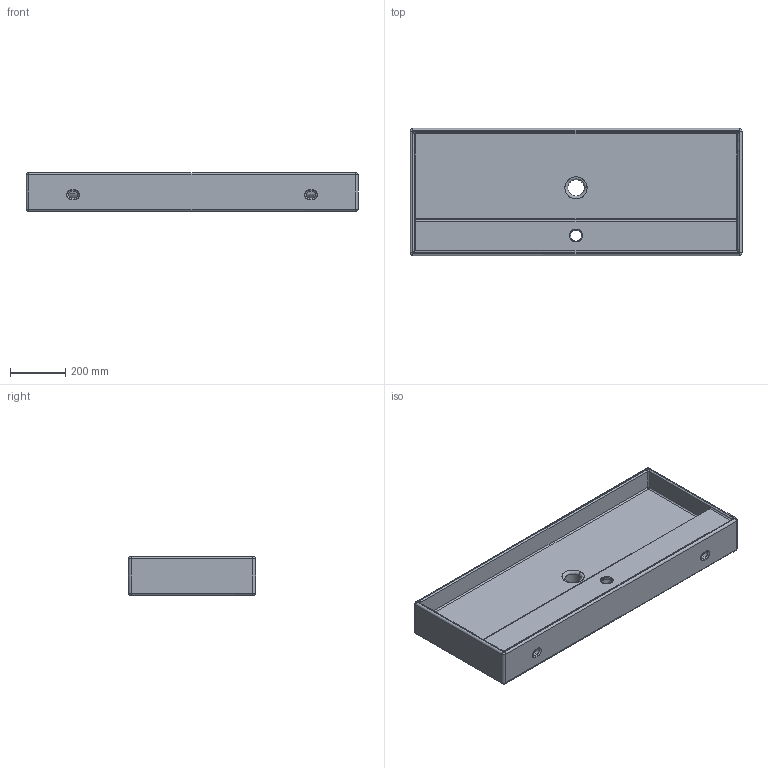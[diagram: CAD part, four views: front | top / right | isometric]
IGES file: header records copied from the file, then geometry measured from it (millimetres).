
Start section: C
Global section: file name: Teorema 120 R-A.igs; native system:  By UGS Corp.; preprocessor: XPlus GENERIC/IGES 3.0; author: Author; organization: Title; date: 20120705.150312; units: millimetre
Bounding box: 1200 x 460 x 140 mm (x, y, z)
Surface area: 2040157.4 mm2 (no closed solid volume)
Topology: 0 solids, 0 shells, 183 faces, 879 edges, 870 vertices
Faces by surface type: bspline 183
